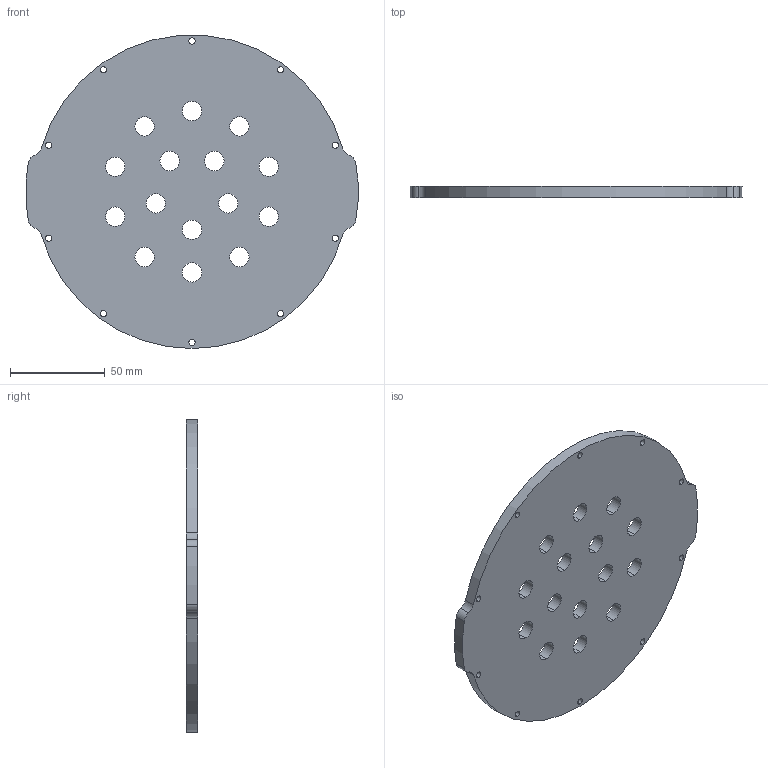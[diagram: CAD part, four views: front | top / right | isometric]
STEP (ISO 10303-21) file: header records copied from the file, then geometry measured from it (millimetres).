
FILE_DESCRIPTION (( 'STEP AP203' ), '1' );
FILE_NAME ('WTE6-M-END-CAP-15-10MM-R1.STEP', '2017-05-11T23:49:53', ( '' ), ( '' ), 'SwSTEP 2.0', 'SolidWorks 2014', '' );
FILE_SCHEMA (( 'CONFIG_CONTROL_DESIGN' ));
Length unit declared in the file: millimetre
Products named in the file (1): WTE6-M-END-CAP-15-10MM-R1
Bounding box: 174.8 x 6 x 164.79 mm (x, y, z)
Volume: 122884.4 mm3; surface area: 47650.1 mm2
Topology: 1 solids, 1 shells, 65 faces, 189 edges, 126 vertices
Faces by surface type: cylinder 63, plane 2
Entity records: 2406 total; most frequent: DIRECTION 447, CARTESIAN_POINT 381, ORIENTED_EDGE 378, AXIS2_PLACEMENT_3D 192, EDGE_CURVE 189, VERTEX_POINT 126, CIRCLE 126, EDGE_LOOP 115
